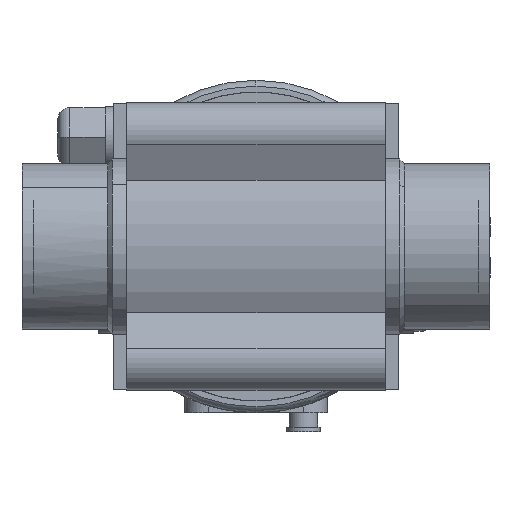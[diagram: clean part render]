
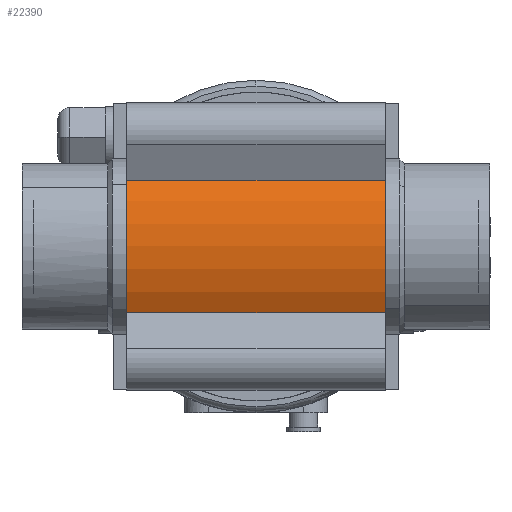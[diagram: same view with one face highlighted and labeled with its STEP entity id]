
A CAD part, front view. The second image highlights one B-rep face of the part: STEP entity #22390.
In plain terms, the highlighted cylindrical face has radius 59.5 mm (diameter 119 mm), a partial arc.
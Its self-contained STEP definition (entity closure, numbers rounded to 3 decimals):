
#17420=CARTESIAN_POINT('',(-52.5,-113.3,0.));
#17430=DIRECTION('',(-1.,0.,0.));
#17440=DIRECTION('',(0.,-0.707,
0.707));
#17450=AXIS2_PLACEMENT_3D('',#17420,#17430,#17440);
#17460=CYLINDRICAL_SURFACE('',#17450,59.5);
#17910=CARTESIAN_POINT('',(44.5,-113.3,0.));
#17920=DIRECTION('',(1.,0.,0.));
#17930=DIRECTION('',(0.,-0.707,
-0.707));
#17940=AXIS2_PLACEMENT_3D('',#17910,#17920,#17930);
#17950=CIRCLE('',#17940,59.5);
#18100=CARTESIAN_POINT('',(-64.5,-113.3,0.));
#18110=DIRECTION('',(-1.,0.,0.));
#18120=DIRECTION('',(0.,-0.707,
0.707));
#18130=AXIS2_PLACEMENT_3D('',#18100,#18110,#18120);
#18140=CIRCLE('',#18130,59.5);
#19660=CARTESIAN_POINT('',(44.5,-165.806,
-27.989));
#19670=VERTEX_POINT('',#19660);
#19700=CARTESIAN_POINT('',(44.5,-165.806,
27.989));
#19710=VERTEX_POINT('',#19700);
#19720=EDGE_CURVE('',#19710,#19670,#17950,.T.);
#22180=ORIENTED_EDGE('',*,*,#19720,.F.);
#22190=CARTESIAN_POINT('',(-52.5,-165.806,
-27.989));
#22200=DIRECTION('',(-1.,0.,0.));
#22210=VECTOR('',#22200,1.);
#22220=LINE('',#22190,#22210);
#22230=CARTESIAN_POINT('',(-64.5,-165.806,
-27.989));
#22240=VERTEX_POINT('',#22230);
#22250=EDGE_CURVE('',#19670,#22240,#22220,.T.);
#22260=ORIENTED_EDGE('',*,*,#22250,.F.);
#22270=CARTESIAN_POINT('',(-64.5,-165.806,
27.989));
#22280=VERTEX_POINT('',#22270);
#22290=EDGE_CURVE('',#22240,#22280,#18140,.T.);
#22300=ORIENTED_EDGE('',*,*,#22290,.F.);
#22310=CARTESIAN_POINT('',(32.5,-165.806,
27.989));
#22320=DIRECTION('',(1.,0.,0.));
#22330=VECTOR('',#22320,1.);
#22340=LINE('',#22310,#22330);
#22350=EDGE_CURVE('',#22280,#19710,#22340,.T.);
#22360=ORIENTED_EDGE('',*,*,#22350,.F.);
#22370=EDGE_LOOP('',(#22360,#22300,#22260,#22180));
#22380=FACE_OUTER_BOUND('',#22370,.T.);
#22390=ADVANCED_FACE('',(#22380),#17460,.T.);
